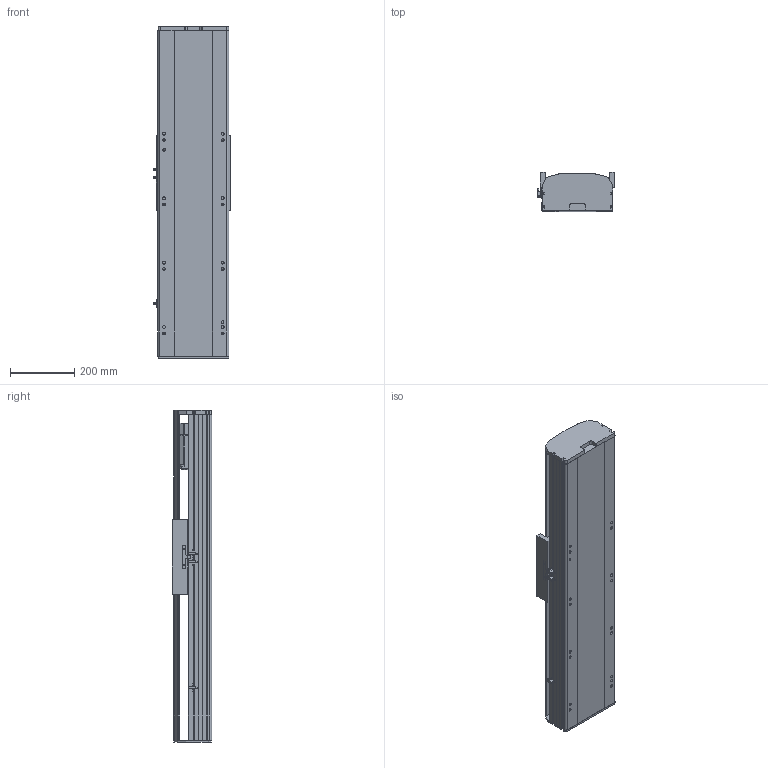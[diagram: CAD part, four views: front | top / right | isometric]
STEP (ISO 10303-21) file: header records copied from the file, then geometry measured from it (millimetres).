
FILE_DESCRIPTION (( 'STEP AP214' ), '1' );
FILE_NAME ('RTH22-XX-400-B-M75B-C4.STEP', '2025-10-24T10:07:03', ( 'Microsoft' ), ( 'Microsoft' ), 'SwSTEP 2.0', 'SolidWorks 2018', '' );
FILE_SCHEMA (( 'AUTOMOTIVE_DESIGN' ));
Length unit declared in the file: millimetre
Products named in the file (9): N_RTH22-B-007B奻裔^RTH22-XX-XX-B-M75B-C4; N_OMRON EE-SX672 传感器^RTH22-XX-XX-B-M75B-C4; N_RTH22-GY-013外置感应片^RTH22-XX-XX-B-M75B-C4; N_RTH22-B008萇儂啣^RTH22-XX-XX-B-M75B-C4; RTH22-XX-400-B-M75B-C4; N_RTH22-B-011B菁釱^RTH22-XX-XX-B-M75B-C4; N_750W萇儂^RTH22-XX-XX-B-M75B-C4; N_RTH22-E-004-SFS25賑釱^RTH22-XX-XX-B-M75B-C4; N_RTH22-GY-001耜裔^RTH22-XX-XX-B-M75B-C4
Assembly tree (10 placements, depth 2):
  RTH22-XX-400-B-M75B-C4
    N_RTH22-B-011B菁釱^RTH22-XX-XX-B-M75B-C4
    N_RTH22-GY-001耜裔^RTH22-XX-XX-B-M75B-C4
    N_750W萇儂^RTH22-XX-XX-B-M75B-C4
    N_RTH22-B008萇儂啣^RTH22-XX-XX-B-M75B-C4
    N_RTH22-B-007B奻裔^RTH22-XX-XX-B-M75B-C4
    N_OMRON EE-SX672 传感器^RTH22-XX-XX-B-M75B-C4  x3
    N_RTH22-GY-013外置感应片^RTH22-XX-XX-B-M75B-C4
    N_RTH22-E-004-SFS25賑釱^RTH22-XX-XX-B-M75B-C4
Bounding box: 238.5 x 122 x 1030 mm (x, y, z)
Volume: 14948582.7 mm3; surface area: 1563695.5 mm2
Topology: 10 solids, 10 shells, 1479 faces, 4050 edges, 2623 vertices
Faces by surface type: plane 748, cylinder 406, bspline 279, cone 46
Entity records: 36117 total; most frequent: CARTESIAN_POINT 11401, ORIENTED_EDGE 5100, DIRECTION 4728, EDGE_CURVE 2550, VERTEX_POINT 1659, VECTOR 1596, LINE 1596, AXIS2_PLACEMENT_3D 1566
